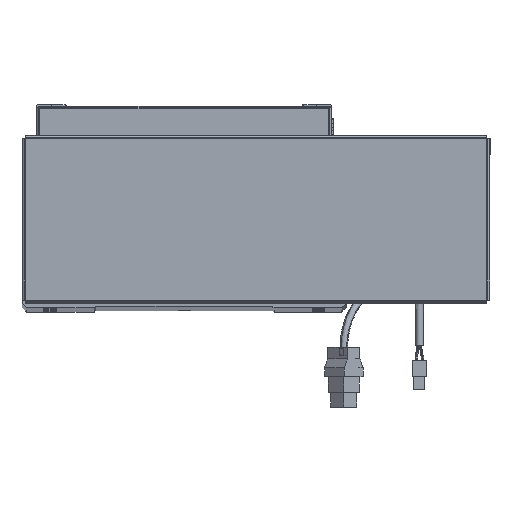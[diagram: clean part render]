
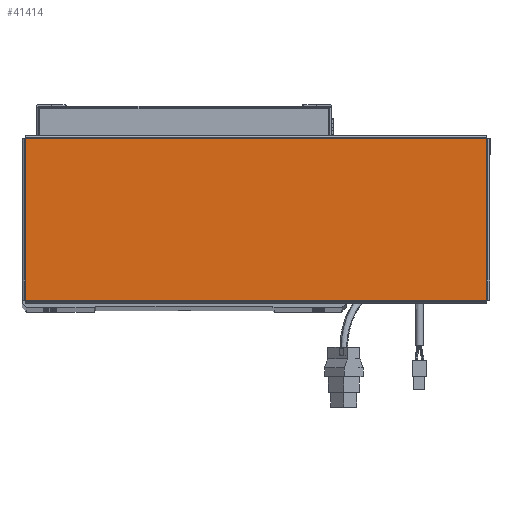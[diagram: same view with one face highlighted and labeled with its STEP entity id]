
A CAD part, top view. The second image highlights one B-rep face of the part: STEP entity #41414.
In plain terms, the highlighted planar face has unit normal (0, 0, 1).
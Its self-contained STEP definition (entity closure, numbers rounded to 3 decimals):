
#199 = CARTESIAN_POINT ( 'NONE',  ( 0., 0., 0. ) ) ;
#2613 = AXIS2_PLACEMENT_3D ( 'NONE', #199, #15747, #53163 ) ;
#3561 = CARTESIAN_POINT ( 'NONE',  ( -156.513, 54.793, 0. ) ) ;
#5301 = ORIENTED_EDGE ( 'NONE', *, *, #7396, .T. ) ;
#5779 = PLANE ( 'NONE',  #2613 ) ;
#6114 = CARTESIAN_POINT ( 'NONE',  ( 156.513, -54.793, 0. ) ) ;
#6663 = CARTESIAN_POINT ( 'NONE',  ( -156.513, -54.763, 0. ) ) ;
#7396 = EDGE_CURVE ( 'NONE', #58232, #52497, #66346, .T. ) ;
#8454 = DIRECTION ( 'NONE',  ( 0., -1., 0. ) ) ;
#10844 = ORIENTED_EDGE ( 'NONE', *, *, #21654, .T. ) ;
#15747 = DIRECTION ( 'NONE',  ( 0., 0., 1. ) ) ;
#17283 = CARTESIAN_POINT ( 'NONE',  ( 156.513, -54.763, 0. ) ) ;
#21654 = EDGE_CURVE ( 'NONE', #52497, #64337, #53645, .T. ) ;
#22304 = DIRECTION ( 'NONE',  ( 0., 1., 0. ) ) ;
#26995 = VECTOR ( 'NONE', #33557, 1000. ) ;
#27912 = CARTESIAN_POINT ( 'NONE',  ( -156.543, -54.763, 0. ) ) ;
#33557 = DIRECTION ( 'NONE',  ( -1., 0., 0. ) ) ;
#35125 = DIRECTION ( 'NONE',  ( 1., 0., 0. ) ) ;
#39906 = VECTOR ( 'NONE', #35125, 1000. ) ;
#40514 = EDGE_CURVE ( 'NONE', #64337, #42890, #59265, .T. ) ;
#41414 = ADVANCED_FACE ( 'NONE', ( #46602 ), #5779, .T. ) ;
#42890 = VERTEX_POINT ( 'NONE', #6663 ) ;
#43487 = VECTOR ( 'NONE', #8454, 1000. ) ;
#46602 = FACE_OUTER_BOUND ( 'NONE', #57931, .T. ) ;
#49570 = CARTESIAN_POINT ( 'NONE',  ( 156.543, 54.763, 0. ) ) ;
#51908 = EDGE_CURVE ( 'NONE', #42890, #58232, #55773, .T. ) ;
#52130 = VECTOR ( 'NONE', #22304, 1000. ) ;
#52497 = VERTEX_POINT ( 'NONE', #65819 ) ;
#52516 = ORIENTED_EDGE ( 'NONE', *, *, #40514, .T. ) ;
#53163 = DIRECTION ( 'NONE',  ( 1., 0., 0. ) ) ;
#53645 = LINE ( 'NONE', #49570, #26995 ) ;
#55773 = LINE ( 'NONE', #27912, #39906 ) ;
#57931 = EDGE_LOOP ( 'NONE', ( #64441, #5301, #10844, #52516 ) ) ;
#58232 = VERTEX_POINT ( 'NONE', #17283 ) ;
#59265 = LINE ( 'NONE', #3561, #43487 ) ;
#64337 = VERTEX_POINT ( 'NONE', #65434 ) ;
#64441 = ORIENTED_EDGE ( 'NONE', *, *, #51908, .T. ) ;
#65434 = CARTESIAN_POINT ( 'NONE',  ( -156.513, 54.763, 0. ) ) ;
#65819 = CARTESIAN_POINT ( 'NONE',  ( 156.513, 54.763, 0. ) ) ;
#66346 = LINE ( 'NONE', #6114, #52130 ) ;
